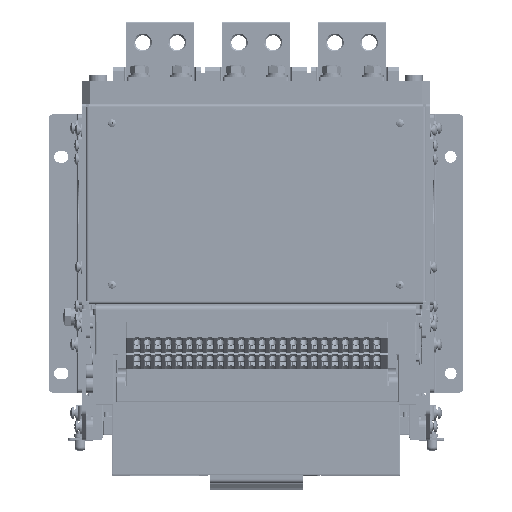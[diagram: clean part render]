
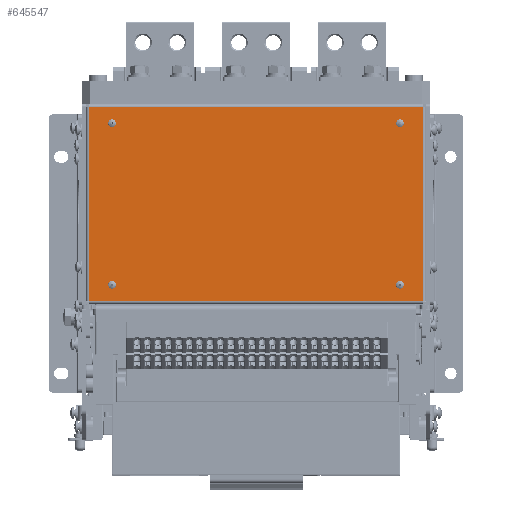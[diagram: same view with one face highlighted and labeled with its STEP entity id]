
A CAD part, top view. The second image highlights one B-rep face of the part: STEP entity #645547.
In plain terms, the highlighted planar face has unit normal (0, 0, 1).
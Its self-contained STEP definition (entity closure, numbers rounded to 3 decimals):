
#1137 = LINE ( 'NONE', #165161, #25824 ) ;
#7744 = PLANE ( 'NONE',  #382813 ) ;
#8377 = CARTESIAN_POINT ( 'NONE',  ( 127.864, 168.238, 343.5 ) ) ;
#11616 = LINE ( 'NONE', #624052, #591774 ) ;
#20695 = AXIS2_PLACEMENT_3D ( 'NONE', #513732, #451801, #338849 ) ;
#24481 = ORIENTED_EDGE ( 'NONE', *, *, #92553, .T. ) ;
#25824 = VECTOR ( 'NONE', #442323, 1000. ) ;
#26694 = VERTEX_POINT ( 'NONE', #458041 ) ;
#28904 = VECTOR ( 'NONE', #347836, 1000. ) ;
#30035 = CIRCLE ( 'NONE', #99691, 1.75 ) ;
#42063 = CARTESIAN_POINT ( 'NONE',  ( -116.136, 239.238, 343.5 ) ) ;
#43191 = VERTEX_POINT ( 'NONE', #293796 ) ;
#60793 = ORIENTED_EDGE ( 'NONE', *, *, #130180, .T. ) ;
#65959 = FACE_BOUND ( 'NONE', #280757, .T. ) ;
#67502 = EDGE_CURVE ( 'NONE', #581959, #667416, #507896, .T. ) ;
#76011 = ORIENTED_EDGE ( 'NONE', *, *, #260313, .T. ) ;
#80877 = CARTESIAN_POINT ( 'NONE',  ( 110.864, 228.988, 343.5 ) ) ;
#92553 = EDGE_CURVE ( 'NONE', #103147, #228638, #252574, .T. ) ;
#94375 = EDGE_LOOP ( 'NONE', ( #629767, #76011 ) ) ;
#99691 = AXIS2_PLACEMENT_3D ( 'NONE', #117766, #274766, #168885 ) ;
#103147 = VERTEX_POINT ( 'NONE', #120758 ) ;
#117766 = CARTESIAN_POINT ( 'NONE',  ( -99.136, 109.238, 343.5 ) ) ;
#120758 = CARTESIAN_POINT ( 'NONE',  ( 110.864, 225.488, 343.5 ) ) ;
#122678 = CARTESIAN_POINT ( 'NONE',  ( 110.864, 227.238, 343.5 ) ) ;
#125011 = ORIENTED_EDGE ( 'NONE', *, *, #358156, .T. ) ;
#130180 = EDGE_CURVE ( 'NONE', #228638, #103147, #353728, .T. ) ;
#143958 = DIRECTION ( 'NONE',  ( 0., 0., -1. ) ) ;
#155550 = AXIS2_PLACEMENT_3D ( 'NONE', #602096, #485515, #376073 ) ;
#159571 = EDGE_LOOP ( 'NONE', ( #328926, #713874 ) ) ;
#161501 = AXIS2_PLACEMENT_3D ( 'NONE', #547947, #325539, #329105 ) ;
#165161 = CARTESIAN_POINT ( 'NONE',  ( -116.136, 168.238, 343.5 ) ) ;
#168885 = DIRECTION ( 'NONE',  ( 0., -1., 0. ) ) ;
#175568 = VERTEX_POINT ( 'NONE', #329157 ) ;
#177355 = CARTESIAN_POINT ( 'NONE',  ( -99.136, 225.488, 343.5 ) ) ;
#193814 = VERTEX_POINT ( 'NONE', #717265 ) ;
#194407 = EDGE_LOOP ( 'NONE', ( #436010, #499524, #662744, #414879 ) ) ;
#223576 = DIRECTION ( 'NONE',  ( 0., -1., 0. ) ) ;
#228638 = VERTEX_POINT ( 'NONE', #80877 ) ;
#230134 = FACE_BOUND ( 'NONE', #159571, .T. ) ;
#234086 = VERTEX_POINT ( 'NONE', #177355 ) ;
#244916 = CARTESIAN_POINT ( 'NONE',  ( 110.864, 227.238, 343.5 ) ) ;
#252574 = CIRCLE ( 'NONE', #660044, 1.75 ) ;
#260313 = EDGE_CURVE ( 'NONE', #193814, #175568, #341939, .T. ) ;
#274766 = DIRECTION ( 'NONE',  ( 0., 0., -1. ) ) ;
#280757 = EDGE_LOOP ( 'NONE', ( #24481, #60793 ) ) ;
#286280 = AXIS2_PLACEMENT_3D ( 'NONE', #360043, #629932, #531359 ) ;
#292018 = DIRECTION ( 'NONE',  ( 0., 0., 1. ) ) ;
#293796 = CARTESIAN_POINT ( 'NONE',  ( 110.864, 110.988, 343.5 ) ) ;
#308182 = CARTESIAN_POINT ( 'NONE',  ( -99.136, 227.238, 343.5 ) ) ;
#309176 = EDGE_CURVE ( 'NONE', #379138, #667416, #511982, .T. ) ;
#325539 = DIRECTION ( 'NONE',  ( 0., 0., -1. ) ) ;
#328926 = ORIENTED_EDGE ( 'NONE', *, *, #437129, .T. ) ;
#329105 = DIRECTION ( 'NONE',  ( 0., -1., 0. ) ) ;
#329157 = CARTESIAN_POINT ( 'NONE',  ( -99.136, 107.488, 343.5 ) ) ;
#338849 = DIRECTION ( 'NONE',  ( 0., -1., 0. ) ) ;
#341939 = CIRCLE ( 'NONE', #155550, 1.75 ) ;
#346678 = FACE_BOUND ( 'NONE', #714823, .T. ) ;
#346974 = DIRECTION ( 'NONE',  ( -1., 0., 0. ) ) ;
#347836 = DIRECTION ( 'NONE',  ( 1., 0., 0. ) ) ;
#350667 = DIRECTION ( 'NONE',  ( 0., -1., 0. ) ) ;
#353728 = CIRCLE ( 'NONE', #551576, 1.75 ) ;
#358156 = EDGE_CURVE ( 'NONE', #653519, #234086, #684804, .T. ) ;
#360043 = CARTESIAN_POINT ( 'NONE',  ( 110.864, 109.238, 343.5 ) ) ;
#376073 = DIRECTION ( 'NONE',  ( 0., -1., 0. ) ) ;
#379138 = VERTEX_POINT ( 'NONE', #478051 ) ;
#382813 = AXIS2_PLACEMENT_3D ( 'NONE', #623762, #292018, #408547 ) ;
#408547 = DIRECTION ( 'NONE',  ( 1., 0., 0. ) ) ;
#414879 = ORIENTED_EDGE ( 'NONE', *, *, #309176, .T. ) ;
#421005 = CIRCLE ( 'NONE', #561054, 1.75 ) ;
#424057 = EDGE_CURVE ( 'NONE', #379138, #525441, #1137, .T. ) ;
#436010 = ORIENTED_EDGE ( 'NONE', *, *, #67502, .F. ) ;
#437129 = EDGE_CURVE ( 'NONE', #26694, #43191, #534292, .T. ) ;
#442323 = DIRECTION ( 'NONE',  ( 0., 1., 0. ) ) ;
#451801 = DIRECTION ( 'NONE',  ( 0., 0., -1. ) ) ;
#456486 = DIRECTION ( 'NONE',  ( 0., 0., -1. ) ) ;
#458041 = CARTESIAN_POINT ( 'NONE',  ( 110.864, 107.488, 343.5 ) ) ;
#461769 = DIRECTION ( 'NONE',  ( 0., -1., 0. ) ) ;
#478051 = CARTESIAN_POINT ( 'NONE',  ( -116.136, 97.238, 343.5 ) ) ;
#485515 = DIRECTION ( 'NONE',  ( 0., 0., -1. ) ) ;
#499524 = ORIENTED_EDGE ( 'NONE', *, *, #601837, .T. ) ;
#507513 = CIRCLE ( 'NONE', #286280, 1.75 ) ;
#507896 = LINE ( 'NONE', #8377, #639508 ) ;
#511982 = LINE ( 'NONE', #679579, #28904 ) ;
#513732 = CARTESIAN_POINT ( 'NONE',  ( -99.136, 227.238, 343.5 ) ) ;
#516496 = DIRECTION ( 'NONE',  ( 0., 0., -1. ) ) ;
#518030 = FACE_BOUND ( 'NONE', #94375, .T. ) ;
#525441 = VERTEX_POINT ( 'NONE', #42063 ) ;
#531359 = DIRECTION ( 'NONE',  ( 0., -1., 0. ) ) ;
#534292 = CIRCLE ( 'NONE', #161501, 1.75 ) ;
#544511 = EDGE_CURVE ( 'NONE', #175568, #193814, #30035, .T. ) ;
#544933 = DIRECTION ( 'NONE',  ( 0., -1., 0. ) ) ;
#547947 = CARTESIAN_POINT ( 'NONE',  ( 110.864, 109.238, 343.5 ) ) ;
#551576 = AXIS2_PLACEMENT_3D ( 'NONE', #122678, #516496, #461769 ) ;
#561054 = AXIS2_PLACEMENT_3D ( 'NONE', #308182, #143958, #544933 ) ;
#581959 = VERTEX_POINT ( 'NONE', #670913 ) ;
#591774 = VECTOR ( 'NONE', #346974, 1000. ) ;
#601837 = EDGE_CURVE ( 'NONE', #581959, #525441, #11616, .T. ) ;
#602096 = CARTESIAN_POINT ( 'NONE',  ( -99.136, 109.238, 343.5 ) ) ;
#623762 = CARTESIAN_POINT ( 'NONE',  ( 5.864, 168.238, 343.5 ) ) ;
#624052 = CARTESIAN_POINT ( 'NONE',  ( 127.864, 239.238, 343.5 ) ) ;
#628910 = CARTESIAN_POINT ( 'NONE',  ( 127.864, 97.238, 343.5 ) ) ;
#629767 = ORIENTED_EDGE ( 'NONE', *, *, #544511, .T. ) ;
#629932 = DIRECTION ( 'NONE',  ( 0., 0., -1. ) ) ;
#630948 = FACE_OUTER_BOUND ( 'NONE', #194407, .T. ) ;
#635139 = CARTESIAN_POINT ( 'NONE',  ( -99.136, 228.988, 343.5 ) ) ;
#639508 = VECTOR ( 'NONE', #223576, 1000. ) ;
#645547 = ADVANCED_FACE ( 'NONE', ( #518030, #346678, #230134, #65959, #630948 ), #7744, .T. ) ;
#653519 = VERTEX_POINT ( 'NONE', #635139 ) ;
#660044 = AXIS2_PLACEMENT_3D ( 'NONE', #244916, #456486, #350667 ) ;
#662744 = ORIENTED_EDGE ( 'NONE', *, *, #424057, .F. ) ;
#667416 = VERTEX_POINT ( 'NONE', #628910 ) ;
#670913 = CARTESIAN_POINT ( 'NONE',  ( 127.864, 239.238, 343.5 ) ) ;
#674088 = EDGE_CURVE ( 'NONE', #234086, #653519, #421005, .T. ) ;
#679579 = CARTESIAN_POINT ( 'NONE',  ( -116.136, 97.238, 343.5 ) ) ;
#684804 = CIRCLE ( 'NONE', #20695, 1.75 ) ;
#713874 = ORIENTED_EDGE ( 'NONE', *, *, #719610, .T. ) ;
#714823 = EDGE_LOOP ( 'NONE', ( #715233, #125011 ) ) ;
#715233 = ORIENTED_EDGE ( 'NONE', *, *, #674088, .T. ) ;
#717265 = CARTESIAN_POINT ( 'NONE',  ( -99.136, 110.988, 343.5 ) ) ;
#719610 = EDGE_CURVE ( 'NONE', #43191, #26694, #507513, .T. ) ;
